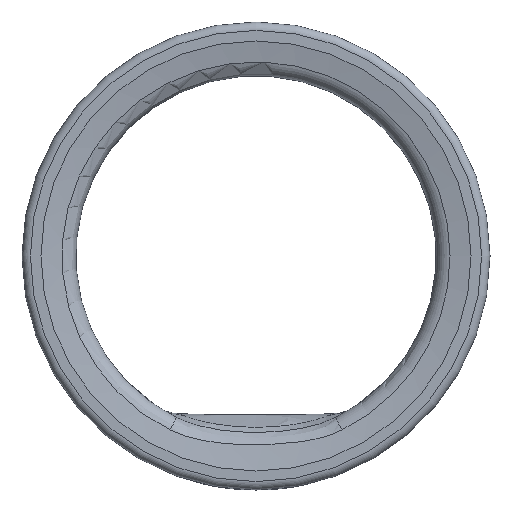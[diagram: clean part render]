
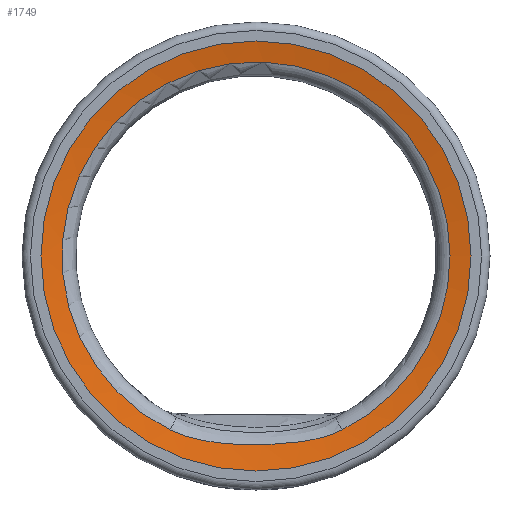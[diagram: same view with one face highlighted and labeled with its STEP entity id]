
A CAD part, left-side view. The second image highlights one B-rep face of the part: STEP entity #1749.
In plain terms, the highlighted conical face has half-angle 79.881 degrees and reference radius 8.868 mm.
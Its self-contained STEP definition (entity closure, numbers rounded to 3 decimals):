
#14=CONICAL_SURFACE('',#1884,8.868,1.394);
#16=B_SPLINE_CURVE_WITH_KNOTS('',3,(#2286,#2287,#2288,#2289,#2290,#2291,
#2292,#2293,#2294),.UNSPECIFIED.,.F.,.F.,(4,1,2,2,4),(-0.849,
-0.703,-0.484,-0.244,0.),
 .UNSPECIFIED.);
#298=FACE_OUTER_BOUND('',#405,.T.);
#405=EDGE_LOOP('',(#1213,#1214,#1215,#1216,#1217,#1218));
#510=LINE('',#2340,#593);
#593=VECTOR('',#1972,8.868);
#684=CIRCLE('',#1878,9.233);
#685=CIRCLE('',#1879,9.233);
#689=CIRCLE('',#1885,10.23);
#715=VERTEX_POINT('',#2232);
#716=VERTEX_POINT('',#2234);
#717=VERTEX_POINT('',#2236);
#725=VERTEX_POINT('',#2339);
#904=EDGE_CURVE('',#715,#716,#684,.T.);
#905=EDGE_CURVE('',#716,#717,#685,.T.);
#908=EDGE_CURVE('',#717,#715,#16,.T.);
#917=EDGE_CURVE('',#716,#725,#510,.T.);
#918=EDGE_CURVE('',#725,#725,#689,.T.);
#1213=ORIENTED_EDGE('',*,*,#904,.F.);
#1214=ORIENTED_EDGE('',*,*,#908,.F.);
#1215=ORIENTED_EDGE('',*,*,#905,.F.);
#1216=ORIENTED_EDGE('',*,*,#917,.T.);
#1217=ORIENTED_EDGE('',*,*,#918,.T.);
#1218=ORIENTED_EDGE('',*,*,#917,.F.);
#1749=ADVANCED_FACE('',(#298),#14,.F.);
#1878=AXIS2_PLACEMENT_3D('',#2235,#1958,#1959);
#1879=AXIS2_PLACEMENT_3D('',#2237,#1960,#1961);
#1884=AXIS2_PLACEMENT_3D('',#2338,#1970,#1971);
#1885=AXIS2_PLACEMENT_3D('',#2341,#1973,#1974);
#1958=DIRECTION('center_axis',(-1.,0.,0.));
#1959=DIRECTION('ref_axis',(0.,0.,1.));
#1960=DIRECTION('center_axis',(-1.,0.,0.));
#1961=DIRECTION('ref_axis',(0.,0.,1.));
#1970=DIRECTION('center_axis',(-1.,0.,0.));
#1971=DIRECTION('ref_axis',(0.,1.,0.));
#1972=DIRECTION('',(-0.176,-0.984,0.));
#1973=DIRECTION('center_axis',(-1.,0.,0.));
#1974=DIRECTION('ref_axis',(0.,1.,0.));
#2232=CARTESIAN_POINT('',(-3.872,-4.087,-8.279));
#2234=CARTESIAN_POINT('',(-3.872,-9.233,0.));
#2235=CARTESIAN_POINT('Origin',(-3.872,0.,
0.));
#2236=CARTESIAN_POINT('',(-3.872,4.086,-8.279));
#2237=CARTESIAN_POINT('Origin',(-3.872,0.,
0.));
#2286=CARTESIAN_POINT('Ctrl Pts',(-3.872,4.086,-8.279));
#2287=CARTESIAN_POINT('Ctrl Pts',(-3.872,3.656,-8.492));
#2288=CARTESIAN_POINT('Ctrl Pts',(-3.855,2.501,-8.849));
#2289=CARTESIAN_POINT('Ctrl Pts',(-3.835,1.3,-8.958));
#2290=CARTESIAN_POINT('Ctrl Pts',(-3.826,-0.206,-9.008));
#2291=CARTESIAN_POINT('Ctrl Pts',(-3.832,-0.996,
-8.987));
#2292=CARTESIAN_POINT('Ctrl Pts',(-3.854,-2.57,-8.799));
#2293=CARTESIAN_POINT('Ctrl Pts',(-3.872,-3.369,-8.634));
#2294=CARTESIAN_POINT('Ctrl Pts',(-3.872,-4.087,-8.279));
#2338=CARTESIAN_POINT('Origin',(-3.807,0.,0.));
#2339=CARTESIAN_POINT('',(-4.05,-10.23,0.));
#2340=CARTESIAN_POINT('',(-3.807,-8.868,0.));
#2341=CARTESIAN_POINT('Origin',(-4.05,0.,0.));
